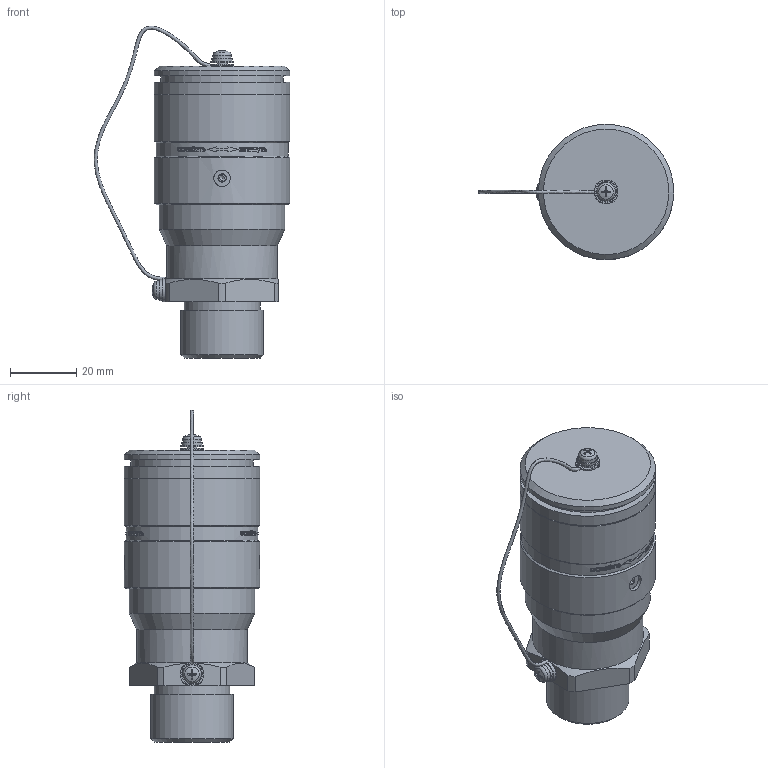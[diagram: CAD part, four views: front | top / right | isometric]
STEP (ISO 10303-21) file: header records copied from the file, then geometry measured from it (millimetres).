
FILE_DESCRIPTION (( 'STEP AP203' ), '1' );
FILE_NAME ('ﾂﾃﾌﾊﾂ-24DC-7-2M.STEP', '2021-11-16T08:05:57', ( '' ), ( '' ), 'SwSTEP 2.0', 'SolidWorks 2018', '' );
FILE_SCHEMA (( 'CONFIG_CONTROL_DESIGN' ));
Length unit declared in the file: millimetre
Products named in the file (1): ﾂﾃﾌﾊﾂ-24DC-7-2M
Bounding box: 59.22 x 41 x 100.52 mm (x, y, z)
Volume: 91548.2 mm3; surface area: 16687.5 mm2
Topology: 1 solids, 1 shells, 715 faces, 1932 edges, 1278 vertices
Faces by surface type: plane 329, bspline 245, cylinder 93, cone 34, torus 12, sphere 2
Full cylindrical faces by diameter (mm): 2.5 x2, 2.729 x2, 3 x2, 3.2 x2, 3.5 x2, 5 x2, 7 x1, 23 x1, 25 x1, 33.5 x1, 37 x1, 38 x1, 38.7 x1, 40 x1, 41 x4
Entity records: 26401 total; most frequent: CARTESIAN_POINT 10406, ORIENTED_EDGE 3720, DIRECTION 2532, EDGE_CURVE 1860, VERTEX_POINT 1255, AXIS2_PLACEMENT_3D 847, LINE 838, VECTOR 838
